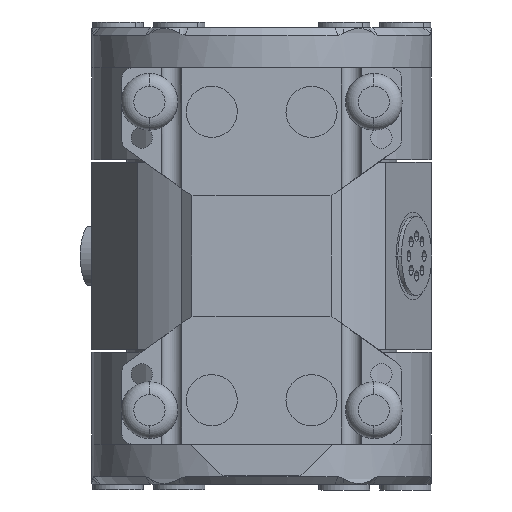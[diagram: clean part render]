
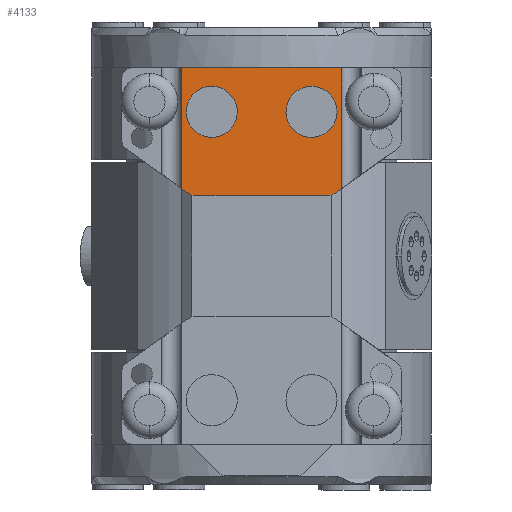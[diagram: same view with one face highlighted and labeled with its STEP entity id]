
A CAD part, front view. The second image highlights one B-rep face of the part: STEP entity #4133.
In plain terms, the highlighted planar face has unit normal (0, -1, 0).
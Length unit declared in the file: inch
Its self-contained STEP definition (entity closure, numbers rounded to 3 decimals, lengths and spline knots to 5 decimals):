
#14 = VERTEX_POINT ( 'NONE', #10004 ) ;
#59 = VERTEX_POINT ( 'NONE', #2824 ) ;
#274 = VERTEX_POINT ( 'NONE', #19410 ) ;
#294 = VERTEX_POINT ( 'NONE', #18601 ) ;
#970 = VERTEX_POINT ( 'NONE', #19767 ) ;
#1278 = ORIENTED_EDGE ( 'NONE', *, *, #17986, .T. ) ;
#1283 = ORIENTED_EDGE ( 'NONE', *, *, #17367, .T. ) ;
#1287 = ORIENTED_EDGE ( 'NONE', *, *, #14983, .F. ) ;
#1288 = ORIENTED_EDGE ( 'NONE', *, *, #19027, .F. ) ;
#1289 = ORIENTED_EDGE ( 'NONE', *, *, #18677, .F. ) ;
#1290 = ORIENTED_EDGE ( 'NONE', *, *, #18627, .T. ) ;
#1291 = ORIENTED_EDGE ( 'NONE', *, *, #14716, .T. ) ;
#1292 = ORIENTED_EDGE ( 'NONE', *, *, #19058, .T. ) ;
#1792 = LINE ( 'NONE', #20789, #1794 ) ;
#1794 = VECTOR ( 'NONE', #20781, 39.37008 ) ;
#2123 = CIRCLE ( 'NONE', #3155, 0.125 ) ;
#2146 = LINE ( 'NONE', #12772, #2148 ) ;
#2148 = VECTOR ( 'NONE', #12773, 39.37008 ) ;
#2288 = LINE ( 'NONE', #13101, #2290 ) ;
#2290 = VECTOR ( 'NONE', #13104, 39.37008 ) ;
#2292 = CIRCLE ( 'NONE', #2927, 0.125 ) ;
#2824 = CARTESIAN_POINT ( 'NONE',  ( 0.90757, -3.66, 0.77873 ) ) ;
#2927 = AXIS2_PLACEMENT_3D ( 'NONE', #13154, #13156, #13158 ) ;
#3155 = AXIS2_PLACEMENT_3D ( 'NONE', #12732, #12733, #12734 ) ;
#4133 = ADVANCED_FACE ( 'NONE', ( #11666 ), #7057, .T. ) ;
#5218 = DIRECTION ( 'NONE',  ( -1., 0., 0. ) ) ;
#5223 = CARTESIAN_POINT ( 'NONE',  ( 1.75, -3.66, 2.3555 ) ) ;
#6408 = CARTESIAN_POINT ( 'NONE',  ( 0.83499, -3.66, 0.7555 ) ) ;
#7054 = DIRECTION ( 'NONE',  ( 0., -1., 0. ) ) ;
#7057 = PLANE ( 'NONE',  #10892 ) ;
#7061 = CARTESIAN_POINT ( 'NONE',  ( 0., -3.66, 1.5555 ) ) ;
#7125 = DIRECTION ( 'NONE',  ( -1., 0., 0. ) ) ;
#7927 = LINE ( 'NONE', #17129, #7935 ) ;
#7935 = VECTOR ( 'NONE', #17126, 39.37008 ) ;
#8515 = LINE ( 'NONE', #18176, #8519 ) ;
#8519 = VECTOR ( 'NONE', #18179, 39.37008 ) ;
#9268 = LINE ( 'NONE', #5223, #9286 ) ;
#9286 = VECTOR ( 'NONE', #5218, 39.37008 ) ;
#10004 = CARTESIAN_POINT ( 'NONE',  ( -1., -3.66, 2.3555 ) ) ;
#10149 = VERTEX_POINT ( 'NONE', #6408 ) ;
#10210 = EDGE_LOOP ( 'NONE', ( #1283, #1287, #1288, #1292, #1291, #1290, #1289, #1278 ) ) ;
#10515 = VERTEX_POINT ( 'NONE', #15393 ) ;
#10548 = VERTEX_POINT ( 'NONE', #15344 ) ;
#10892 = AXIS2_PLACEMENT_3D ( 'NONE', #7061, #7054, #7125 ) ;
#11666 = FACE_OUTER_BOUND ( 'NONE', #10210, .T. ) ;
#12732 = CARTESIAN_POINT ( 'NONE',  ( 0.83499, -3.66, 0.8805 ) ) ;
#12733 = DIRECTION ( 'NONE',  ( 0., -1., 0. ) ) ;
#12734 = DIRECTION ( 'NONE',  ( -1., 0., 0. ) ) ;
#12772 = CARTESIAN_POINT ( 'NONE',  ( 1.75, -3.66, 1.3795 ) ) ;
#12773 = DIRECTION ( 'NONE',  ( -0.814, 0., -0.581 ) ) ;
#13101 = CARTESIAN_POINT ( 'NONE',  ( -0.875, -3.66, 0.7555 ) ) ;
#13104 = DIRECTION ( 'NONE',  ( -0.814, 0., 0.581 ) ) ;
#13154 = CARTESIAN_POINT ( 'NONE',  ( -0.83499, -3.66, 0.8805 ) ) ;
#13156 = DIRECTION ( 'NONE',  ( 0., -1., 0. ) ) ;
#13158 = DIRECTION ( 'NONE',  ( -1., 0., 0. ) ) ;
#14716 = EDGE_CURVE ( 'NONE', #10548, #10149, #7927, .T. ) ;
#14983 = EDGE_CURVE ( 'NONE', #294, #14, #8515, .T. ) ;
#15344 = CARTESIAN_POINT ( 'NONE',  ( -0.83499, -3.66, 0.7555 ) ) ;
#15393 = CARTESIAN_POINT ( 'NONE',  ( -0.90757, -3.66, 0.77873 ) ) ;
#17126 = DIRECTION ( 'NONE',  ( 1., 0., 0. ) ) ;
#17129 = CARTESIAN_POINT ( 'NONE',  ( 1.75, -3.66, 0.7555 ) ) ;
#17367 = EDGE_CURVE ( 'NONE', #970, #14, #9268, .T. ) ;
#17986 = EDGE_CURVE ( 'NONE', #274, #970, #1792, .T. ) ;
#18176 = CARTESIAN_POINT ( 'NONE',  ( -1., -3.66, 0.7555 ) ) ;
#18179 = DIRECTION ( 'NONE',  ( 0., 0., 1. ) ) ;
#18601 = CARTESIAN_POINT ( 'NONE',  ( -1., -3.66, 0.84464 ) ) ;
#18627 = EDGE_CURVE ( 'NONE', #10149, #59, #2123, .T. ) ;
#18677 = EDGE_CURVE ( 'NONE', #274, #59, #2146, .T. ) ;
#19027 = EDGE_CURVE ( 'NONE', #10515, #294, #2288, .T. ) ;
#19058 = EDGE_CURVE ( 'NONE', #10515, #10548, #2292, .T. ) ;
#19410 = CARTESIAN_POINT ( 'NONE',  ( 1., -3.66, 0.84464 ) ) ;
#19767 = CARTESIAN_POINT ( 'NONE',  ( 1., -3.66, 2.3555 ) ) ;
#20781 = DIRECTION ( 'NONE',  ( 0., 0., 1. ) ) ;
#20789 = CARTESIAN_POINT ( 'NONE',  ( 1., -3.66, 0.7555 ) ) ;
